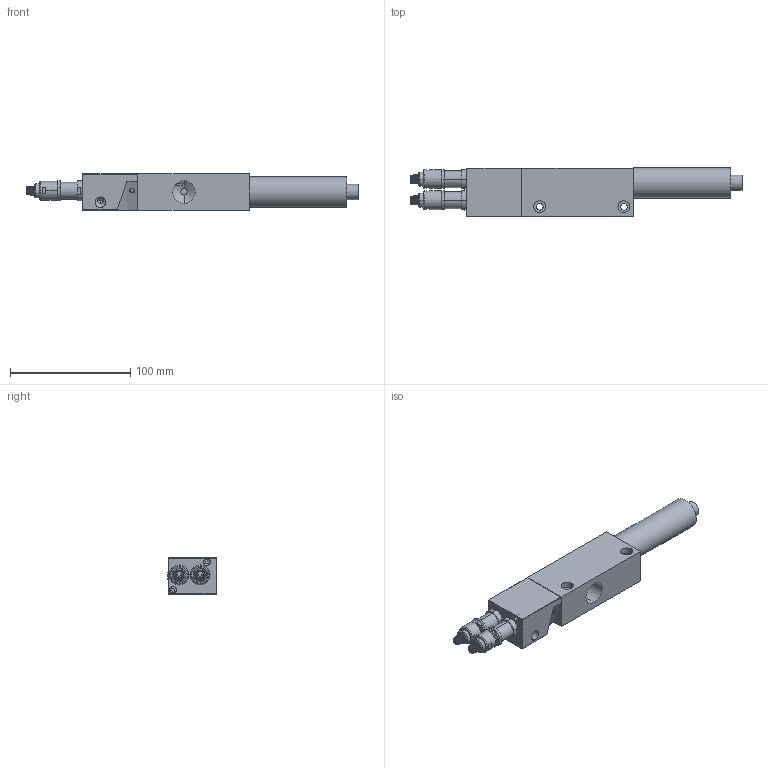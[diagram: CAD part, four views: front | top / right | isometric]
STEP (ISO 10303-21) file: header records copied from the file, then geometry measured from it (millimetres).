
FILE_DESCRIPTION (( 'STEP AP214' ), '1' );
FILE_NAME ('SSV-515DV-UPDATED.STEP', '2025-09-15T17:46:32', ( '' ), ( '' ), 'SwSTEP 2.0', 'SolidWorks 2025', '' );
FILE_SCHEMA (( 'AUTOMOTIVE_DESIGN' ));
Length unit declared in the file: inch
Products named in the file (3): SSV-515DV-UPDATED; SSV-220DV; GS-ST38
Assembly tree (2 placements, depth 2):
  SSV-515DV-UPDATED
    SSV-220DV
    GS-ST38
Bounding box: 276.15 x 40.69 x 30 mm (x, y, z)
Volume: 200533.2 mm3; surface area: 48084.6 mm2
Topology: 2 solids, 14 shells, 1001 faces, 2424 edges, 1462 vertices
Faces by surface type: cylinder 448, plane 210, torus 148, cone 108, bspline 55, sphere 32
Full cylindrical faces by diameter (mm): 11 x2, 12.7 x2, 14.3 x5, 25.4 x1
Entity records: 42362 total; most frequent: CARTESIAN_POINT 19827, DIRECTION 4812, ORIENTED_EDGE 4718, EDGE_CURVE 2359, AXIS2_PLACEMENT_3D 1989, VERTEX_POINT 1462, EDGE_LOOP 1099, CIRCLE 1038
